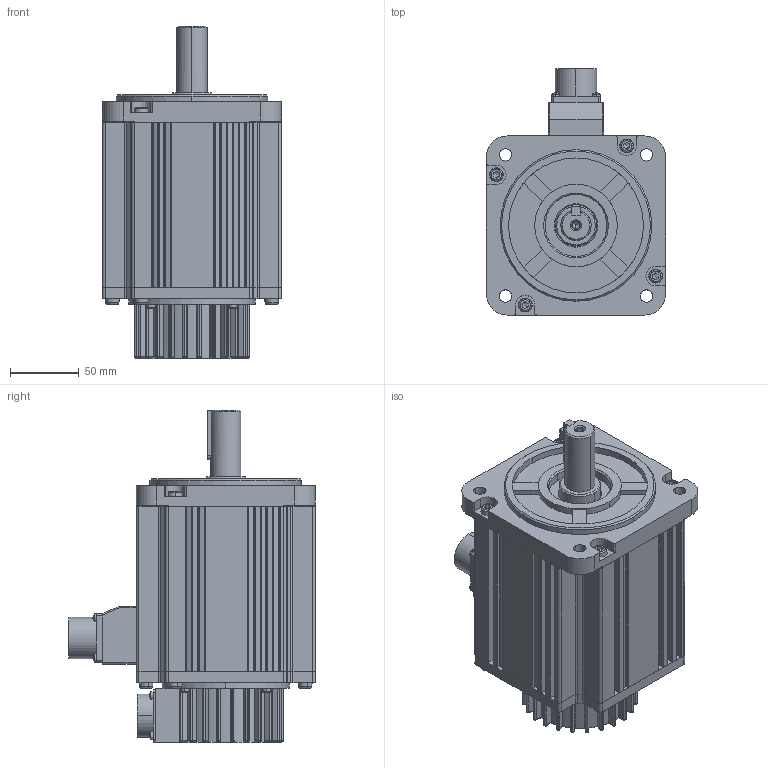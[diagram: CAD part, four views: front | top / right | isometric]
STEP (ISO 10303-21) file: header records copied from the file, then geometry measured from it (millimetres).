
FILE_DESCRIPTION (( 'STEP AP203' ), '1' );
FILE_NAME ('R130-2000.STEP', '2019-08-19T02:05:50', ( '1' ), ( 'MideaGroup IT' ), 'SwSTEP 2.0', 'SolidWorks 2012', '' );
FILE_SCHEMA (( 'CONFIG_CONTROL_DESIGN' ));
Length unit declared in the file: millimetre
Products named in the file (15): R130-2000; R130瑩; M3X10_GB_CROSS_SCREWS_TYPE1 M3X10-10  H type-N; M3X28_GB_FASTENER_SCREWS_HSHCS M3X25-C; M6X16-16-N_GB_HEXAGON_TYPE21 M6X16-16-N; ヶ傷裔-001; 萇埭盄瑤脣; 晤鎢ん瑤脣; 綴傷裔-002; 130-綴裔; 130-80B-瑤脣; 蛌赽郪璃-001; deep groove ball bearings gb_Rolling bearings 6206 GB 276-94; 130-85粣-001; 儂褲-001
Assembly tree (31 placements, depth 3):
  R130-2000
    儂褲-001
    蛌赽郪璃-001
      130-85粣-001
      deep groove ball bearings gb_Rolling bearings 6206 GB 276-94
    130-80B-瑤脣
    130-綴裔
    綴傷裔-002
    晤鎢ん瑤脣
    萇埭盄瑤脣
    ヶ傷裔-001
    M6X16-16-N_GB_HEXAGON_TYPE21 M6X16-16-N  x8
    M3X28_GB_FASTENER_SCREWS_HSHCS M3X25-C  x4
    M3X10_GB_CROSS_SCREWS_TYPE1 M3X10-10  H type-N  x8
    R130瑩
Bounding box: 130 x 179 x 241 mm (x, y, z)
Volume: 983765.9 mm3; surface area: 336344.3 mm2
Topology: 30 solids, 30 shells, 1550 faces, 4198 edges, 2681 vertices
Faces by surface type: cylinder 702, plane 532, sphere 132, torus 98, cone 54, bspline 32
Entity records: 42024 total; most frequent: CARTESIAN_POINT 9103, DIRECTION 6819, ORIENTED_EDGE 6352, EDGE_CURVE 3176, AXIS2_PLACEMENT_3D 2729, VERTEX_POINT 2051, CIRCLE 1489, EDGE_LOOP 1387
